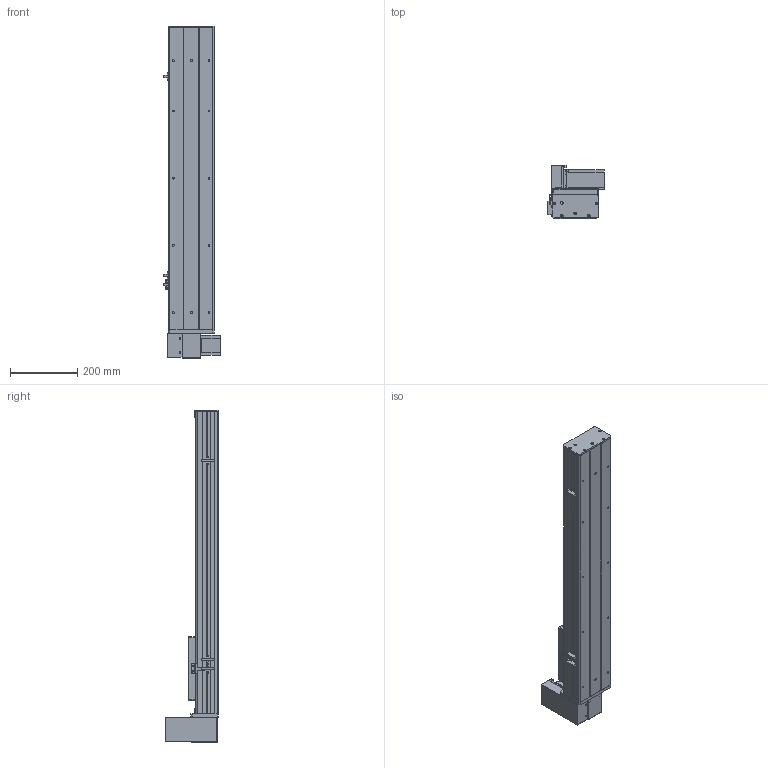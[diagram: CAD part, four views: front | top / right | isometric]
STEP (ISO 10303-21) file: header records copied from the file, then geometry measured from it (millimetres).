
FILE_DESCRIPTION (( 'STEP AP203' ), '1' );
FILE_NAME ('Y135CB-D90-S600-UR-P400W.STEP', '2020-02-18T03:56:06', ( '微软用户' ), ( '微软中国' ), 'SwSTEP 2.0', 'SolidWorks 2017', '' );
FILE_SCHEMA (( 'CONFIG_CONTROL_DESIGN' ));
Length unit declared in the file: millimetre
Products named in the file (18): 00B-俋欶BM--; C-詩湍揤踡え-陔; Y135CB-耜裔; Y135CB-D90-S600-UR-P400W; 135CB--詩湍-CE; 135CB---遴掛极.-; Y100-135俋离換覜ん--; 35CB---喘謫眊楊擘啣; Y135C-陔俋离換覜結え-; 0B-埴倛裔啣; 5C--俋欶; 0B-源倛裔啣; C-雄赽釱--; 0B-萇儂楊擘啣; Y10B--々湍喘謫眊--666; san松下电机400不带刹车----; Y10B-耜蚾蟀諉啣----; 5CB --掛极耜裔啣-
Assembly tree (21 placements, depth 2):
  Y135CB-D90-S600-UR-P400W
    Y135CB-耜裔
    135CB---遴掛极.-
    35CB---喘謫眊楊擘啣
    0B-埴倛裔啣
    0B-源倛裔啣
    0B-萇儂楊擘啣
    san松下电机400不带刹车----
    5CB --掛极耜裔啣-  x2
    C-詩湍揤踡え-陔  x2
    135CB--詩湍-CE
    Y100-135俋离換覜ん--  x3
    Y135C-陔俋离換覜結え-
    5C--俋欶
    C-雄赽釱--
    Y10B--々湍喘謫眊--666
    Y10B-耜蚾蟀諉啣----
    00B-俋欶BM--
Bounding box: 167.5 x 158.7 x 988 mm (x, y, z)
Volume: 3347688.2 mm3; surface area: 1299211.1 mm2
Topology: 21 solids, 21 shells, 937 faces, 2491 edges, 1650 vertices
Faces by surface type: cylinder 465, plane 456, cone 16
Entity records: 28945 total; most frequent: DIRECTION 4807, CARTESIAN_POINT 4724, ORIENTED_EDGE 4458, EDGE_CURVE 2229, AXIS2_PLACEMENT_3D 1749, VERTEX_POINT 1478, VECTOR 1309, LINE 1309
